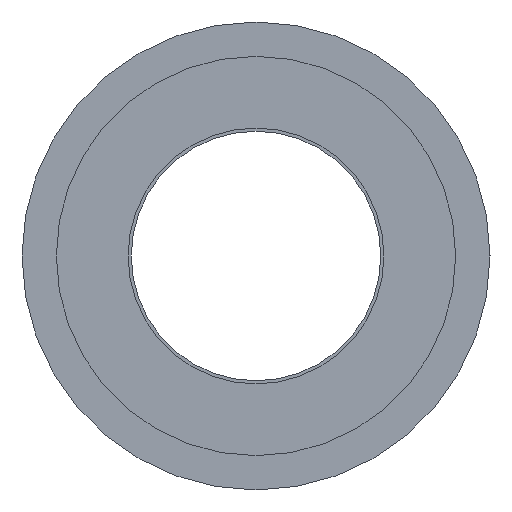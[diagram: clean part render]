
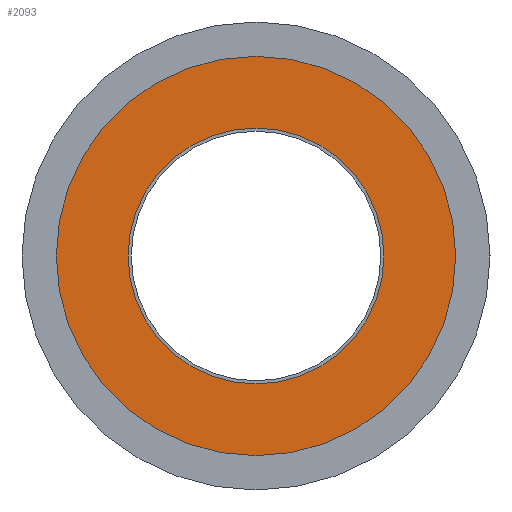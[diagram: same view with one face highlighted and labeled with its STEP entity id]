
A CAD part, left-side view. The second image highlights one B-rep face of the part: STEP entity #2093.
In plain terms, the highlighted planar face has unit normal (-1, 0, 0).
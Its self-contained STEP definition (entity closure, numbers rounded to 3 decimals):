
#1877 = CYLINDRICAL_SURFACE('',#1878,4.1);
#1878 = AXIS2_PLACEMENT_3D('',#1879,#1880,#1881);
#1879 = CARTESIAN_POINT('',(-21.61,0.,0.));
#1880 = DIRECTION('',(1.,0.,0.));
#1881 = DIRECTION('',(-0.,1.,0.));
#1902 = VERTEX_POINT('',#1903);
#1903 = CARTESIAN_POINT('',(-21.81,-4.1,0.));
#1917 = CYLINDRICAL_SURFACE('',#1918,4.1);
#1918 = AXIS2_PLACEMENT_3D('',#1919,#1920,#1921);
#1919 = CARTESIAN_POINT('',(-21.61,0.,0.));
#1920 = DIRECTION('',(1.,0.,0.));
#1921 = DIRECTION('',(-0.,1.,0.));
#1929 = EDGE_CURVE('',#1902,#1930,#1932,.T.);
#1930 = VERTEX_POINT('',#1931);
#1931 = CARTESIAN_POINT('',(-21.81,4.1,0.));
#1932 = SURFACE_CURVE('',#1933,(#1938,#1945),.PCURVE_S1.);
#1933 = CIRCLE('',#1934,4.1);
#1934 = AXIS2_PLACEMENT_3D('',#1935,#1936,#1937);
#1935 = CARTESIAN_POINT('',(-21.81,0.,0.));
#1936 = DIRECTION('',(1.,0.,0.));
#1937 = DIRECTION('',(-0.,1.,0.));
#1938 = PCURVE('',#1877,#1939);
#1939 = DEFINITIONAL_REPRESENTATION('',(#1940),#1944);
#1940 = LINE('',#1941,#1942);
#1941 = CARTESIAN_POINT('',(0.,-0.2));
#1942 = VECTOR('',#1943,1.);
#1943 = DIRECTION('',(1.,0.));
#1944 = ( GEOMETRIC_REPRESENTATION_CONTEXT(2) 
PARAMETRIC_REPRESENTATION_CONTEXT() REPRESENTATION_CONTEXT('2D SPACE',''
  ) );
#1945 = PCURVE('',#1946,#1951);
#1946 = PLANE('',#1947);
#1947 = AXIS2_PLACEMENT_3D('',#1948,#1949,#1950);
#1948 = CARTESIAN_POINT('',(-21.81,5.475,0.));
#1949 = DIRECTION('',(-1.,0.,0.));
#1950 = DIRECTION('',(0.,-1.,0.));
#1951 = DEFINITIONAL_REPRESENTATION('',(#1952),#1960);
#1952 = ( BOUNDED_CURVE() B_SPLINE_CURVE(2,(#1953,#1954,#1955,#1956,
#1957,#1958,#1959),.UNSPECIFIED.,.T.,.F.) B_SPLINE_CURVE_WITH_KNOTS((1,2
    ,2,2,2,1),(-2.094,0.,2.094,4.189,
6.283,8.378),.UNSPECIFIED.) CURVE() 
GEOMETRIC_REPRESENTATION_ITEM() RATIONAL_B_SPLINE_CURVE((1.,0.5,1.,0.5,
1.,0.5,1.)) REPRESENTATION_ITEM('') );
#1953 = CARTESIAN_POINT('',(1.375,0.));
#1954 = CARTESIAN_POINT('',(1.375,7.101));
#1955 = CARTESIAN_POINT('',(7.525,3.551));
#1956 = CARTESIAN_POINT('',(13.675,0.));
#1957 = CARTESIAN_POINT('',(7.525,-3.551));
#1958 = CARTESIAN_POINT('',(1.375,-7.101));
#1959 = CARTESIAN_POINT('',(1.375,0.));
#1960 = ( GEOMETRIC_REPRESENTATION_CONTEXT(2) 
PARAMETRIC_REPRESENTATION_CONTEXT() REPRESENTATION_CONTEXT('2D SPACE',''
  ) );
#1987 = VERTEX_POINT('',#1988);
#1988 = CARTESIAN_POINT('',(-21.81,6.85,0.));
#1997 = CYLINDRICAL_SURFACE('',#1998,6.85);
#1998 = AXIS2_PLACEMENT_3D('',#1999,#2000,#2001);
#1999 = CARTESIAN_POINT('',(-21.61,0.,0.));
#2000 = DIRECTION('',(1.,0.,0.));
#2001 = DIRECTION('',(-0.,1.,0.));
#2009 = CYLINDRICAL_SURFACE('',#2010,6.85);
#2010 = AXIS2_PLACEMENT_3D('',#2011,#2012,#2013);
#2011 = CARTESIAN_POINT('',(-21.61,0.,0.));
#2012 = DIRECTION('',(1.,0.,0.));
#2013 = DIRECTION('',(-0.,1.,0.));
#2021 = EDGE_CURVE('',#1987,#2022,#2024,.T.);
#2022 = VERTEX_POINT('',#2023);
#2023 = CARTESIAN_POINT('',(-21.81,-6.85,0.));
#2024 = SURFACE_CURVE('',#2025,(#2030,#2037),.PCURVE_S1.);
#2025 = CIRCLE('',#2026,6.85);
#2026 = AXIS2_PLACEMENT_3D('',#2027,#2028,#2029);
#2027 = CARTESIAN_POINT('',(-21.81,0.,0.));
#2028 = DIRECTION('',(1.,0.,0.));
#2029 = DIRECTION('',(-0.,1.,0.));
#2030 = PCURVE('',#1997,#2031);
#2031 = DEFINITIONAL_REPRESENTATION('',(#2032),#2036);
#2032 = LINE('',#2033,#2034);
#2033 = CARTESIAN_POINT('',(0.,-0.2));
#2034 = VECTOR('',#2035,1.);
#2035 = DIRECTION('',(1.,0.));
#2036 = ( GEOMETRIC_REPRESENTATION_CONTEXT(2) 
PARAMETRIC_REPRESENTATION_CONTEXT() REPRESENTATION_CONTEXT('2D SPACE',''
  ) );
#2037 = PCURVE('',#1946,#2038);
#2038 = DEFINITIONAL_REPRESENTATION('',(#2039),#2047);
#2039 = ( BOUNDED_CURVE() B_SPLINE_CURVE(2,(#2040,#2041,#2042,#2043,
#2044,#2045,#2046),.UNSPECIFIED.,.T.,.F.) B_SPLINE_CURVE_WITH_KNOTS((1,2
    ,2,2,2,1),(-2.094,0.,2.094,4.189,
6.283,8.378),.UNSPECIFIED.) CURVE() 
GEOMETRIC_REPRESENTATION_ITEM() RATIONAL_B_SPLINE_CURVE((1.,0.5,1.,0.5,
1.,0.5,1.)) REPRESENTATION_ITEM('') );
#2040 = CARTESIAN_POINT('',(-1.375,0.));
#2041 = CARTESIAN_POINT('',(-1.375,11.865));
#2042 = CARTESIAN_POINT('',(8.9,5.932));
#2043 = CARTESIAN_POINT('',(19.175,0.));
#2044 = CARTESIAN_POINT('',(8.9,-5.932));
#2045 = CARTESIAN_POINT('',(-1.375,-11.865));
#2046 = CARTESIAN_POINT('',(-1.375,0.));
#2047 = ( GEOMETRIC_REPRESENTATION_CONTEXT(2) 
PARAMETRIC_REPRESENTATION_CONTEXT() REPRESENTATION_CONTEXT('2D SPACE',''
  ) );
#2093 = ADVANCED_FACE('',(#2094,#2123),#1946,.T.);
#2094 = FACE_BOUND('',#2095,.T.);
#2095 = EDGE_LOOP('',(#2096,#2097));
#2096 = ORIENTED_EDGE('',*,*,#2021,.F.);
#2097 = ORIENTED_EDGE('',*,*,#2098,.F.);
#2098 = EDGE_CURVE('',#2022,#1987,#2099,.T.);
#2099 = SURFACE_CURVE('',#2100,(#2105,#2116),.PCURVE_S1.);
#2100 = CIRCLE('',#2101,6.85);
#2101 = AXIS2_PLACEMENT_3D('',#2102,#2103,#2104);
#2102 = CARTESIAN_POINT('',(-21.81,0.,0.));
#2103 = DIRECTION('',(1.,0.,0.));
#2104 = DIRECTION('',(-0.,1.,0.));
#2105 = PCURVE('',#1946,#2106);
#2106 = DEFINITIONAL_REPRESENTATION('',(#2107),#2115);
#2107 = ( BOUNDED_CURVE() B_SPLINE_CURVE(2,(#2108,#2109,#2110,#2111,
#2112,#2113,#2114),.UNSPECIFIED.,.T.,.F.) B_SPLINE_CURVE_WITH_KNOTS((1,2
    ,2,2,2,1),(-2.094,0.,2.094,4.189,
6.283,8.378),.UNSPECIFIED.) CURVE() 
GEOMETRIC_REPRESENTATION_ITEM() RATIONAL_B_SPLINE_CURVE((1.,0.5,1.,0.5,
1.,0.5,1.)) REPRESENTATION_ITEM('') );
#2108 = CARTESIAN_POINT('',(-1.375,0.));
#2109 = CARTESIAN_POINT('',(-1.375,11.865));
#2110 = CARTESIAN_POINT('',(8.9,5.932));
#2111 = CARTESIAN_POINT('',(19.175,0.));
#2112 = CARTESIAN_POINT('',(8.9,-5.932));
#2113 = CARTESIAN_POINT('',(-1.375,-11.865));
#2114 = CARTESIAN_POINT('',(-1.375,0.));
#2115 = ( GEOMETRIC_REPRESENTATION_CONTEXT(2) 
PARAMETRIC_REPRESENTATION_CONTEXT() REPRESENTATION_CONTEXT('2D SPACE',''
  ) );
#2116 = PCURVE('',#2009,#2117);
#2117 = DEFINITIONAL_REPRESENTATION('',(#2118),#2122);
#2118 = LINE('',#2119,#2120);
#2119 = CARTESIAN_POINT('',(0.,-0.2));
#2120 = VECTOR('',#2121,1.);
#2121 = DIRECTION('',(1.,0.));
#2122 = ( GEOMETRIC_REPRESENTATION_CONTEXT(2) 
PARAMETRIC_REPRESENTATION_CONTEXT() REPRESENTATION_CONTEXT('2D SPACE',''
  ) );
#2123 = FACE_BOUND('',#2124,.T.);
#2124 = EDGE_LOOP('',(#2125,#2151));
#2125 = ORIENTED_EDGE('',*,*,#2126,.T.);
#2126 = EDGE_CURVE('',#1930,#1902,#2127,.T.);
#2127 = SURFACE_CURVE('',#2128,(#2133,#2144),.PCURVE_S1.);
#2128 = CIRCLE('',#2129,4.1);
#2129 = AXIS2_PLACEMENT_3D('',#2130,#2131,#2132);
#2130 = CARTESIAN_POINT('',(-21.81,0.,0.));
#2131 = DIRECTION('',(1.,0.,0.));
#2132 = DIRECTION('',(-0.,1.,0.));
#2133 = PCURVE('',#1946,#2134);
#2134 = DEFINITIONAL_REPRESENTATION('',(#2135),#2143);
#2135 = ( BOUNDED_CURVE() B_SPLINE_CURVE(2,(#2136,#2137,#2138,#2139,
#2140,#2141,#2142),.UNSPECIFIED.,.T.,.F.) B_SPLINE_CURVE_WITH_KNOTS((1,2
    ,2,2,2,1),(-2.094,0.,2.094,4.189,
6.283,8.378),.UNSPECIFIED.) CURVE() 
GEOMETRIC_REPRESENTATION_ITEM() RATIONAL_B_SPLINE_CURVE((1.,0.5,1.,0.5,
1.,0.5,1.)) REPRESENTATION_ITEM('') );
#2136 = CARTESIAN_POINT('',(1.375,0.));
#2137 = CARTESIAN_POINT('',(1.375,7.101));
#2138 = CARTESIAN_POINT('',(7.525,3.551));
#2139 = CARTESIAN_POINT('',(13.675,0.));
#2140 = CARTESIAN_POINT('',(7.525,-3.551));
#2141 = CARTESIAN_POINT('',(1.375,-7.101));
#2142 = CARTESIAN_POINT('',(1.375,0.));
#2143 = ( GEOMETRIC_REPRESENTATION_CONTEXT(2) 
PARAMETRIC_REPRESENTATION_CONTEXT() REPRESENTATION_CONTEXT('2D SPACE',''
  ) );
#2144 = PCURVE('',#1917,#2145);
#2145 = DEFINITIONAL_REPRESENTATION('',(#2146),#2150);
#2146 = LINE('',#2147,#2148);
#2147 = CARTESIAN_POINT('',(0.,-0.2));
#2148 = VECTOR('',#2149,1.);
#2149 = DIRECTION('',(1.,0.));
#2150 = ( GEOMETRIC_REPRESENTATION_CONTEXT(2) 
PARAMETRIC_REPRESENTATION_CONTEXT() REPRESENTATION_CONTEXT('2D SPACE',''
  ) );
#2151 = ORIENTED_EDGE('',*,*,#1929,.T.);
